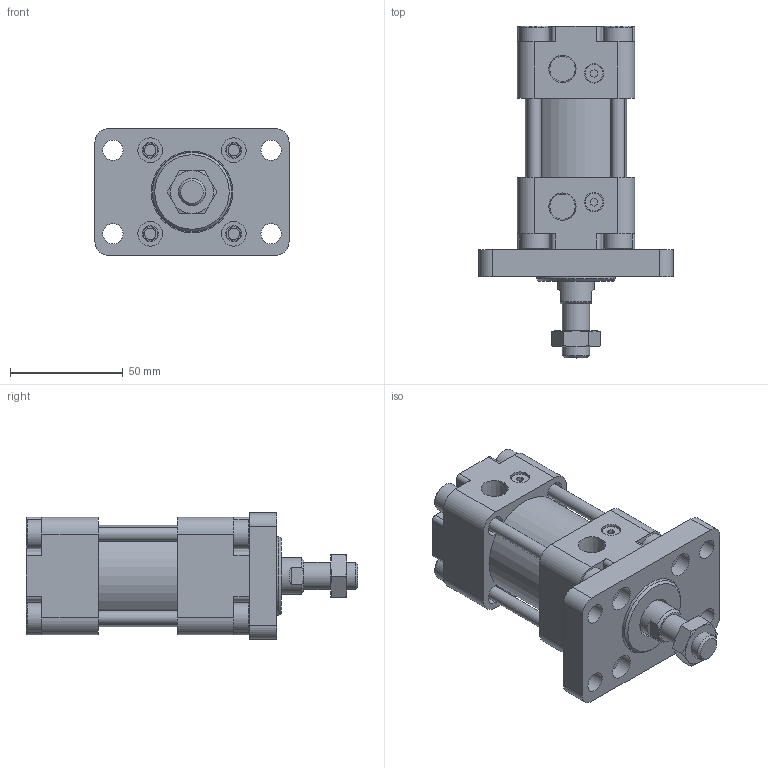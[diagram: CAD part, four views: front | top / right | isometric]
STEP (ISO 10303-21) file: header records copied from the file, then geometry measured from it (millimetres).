
FILE_DESCRIPTION(/* description */ ('Unknown'),/* implementation_level */ '2;1');
FILE_NAME(/* name */ 'WA40-FA',/* time_stamp */ '2026-07-17T16:48:24+08:00',/* author */ ('Unknown'),/* organization */ ('Unknown'),/* preprocessor_version */ 'ST-DEVELOPER v16.7',/* originating_system */ 'DEX',/* authorisation */ $);
FILE_SCHEMA (('CONFIG_CONTROL_DESIGN'));
Length unit declared in the file: millimetre
Products named in the file (8): WA40-FA; WA40_前; WA40_岃搵; WA40_鋁; WA40_心軸活; M12-1.25P-7_螺; WA40_T帽牙T; WA40_FA
Assembly tree (10 placements, depth 2):
  WA40-FA
    WA40_前
    WA40_岃搵
    WA40_鋁
    WA40_心軸活
    M12-1.25P-7_螺
    WA40_T帽牙T  x4
    WA40_FA
Bounding box: 86 x 147 x 56 mm (x, y, z)
Volume: 270374 mm3; surface area: 85109.9 mm2
Topology: 10 solids, 10 shells, 371 faces, 888 edges, 598 vertices
Faces by surface type: plane 215, cylinder 119, cone 37
Full cylindrical faces by diameter (mm): 5 x8, 6 x4, 7 x4, 8 x2, 8.5 x2, 8.8 x8, 9 x12, 10.647 x1, 11 x4, 12 x1, 13 x8, 16 x2, 35 x1, 36 x1, 39.5 x1, 40 x3, 45 x1
Entity records: 9367 total; most frequent: CARTESIAN_POINT 1367, DIRECTION 1348, ORIENTED_EDGE 1174, EDGE_CURVE 587, AXIS2_PLACEMENT_3D 512, VERTEX_POINT 419, EDGE_LOOP 390, FACE_BOUND 390
